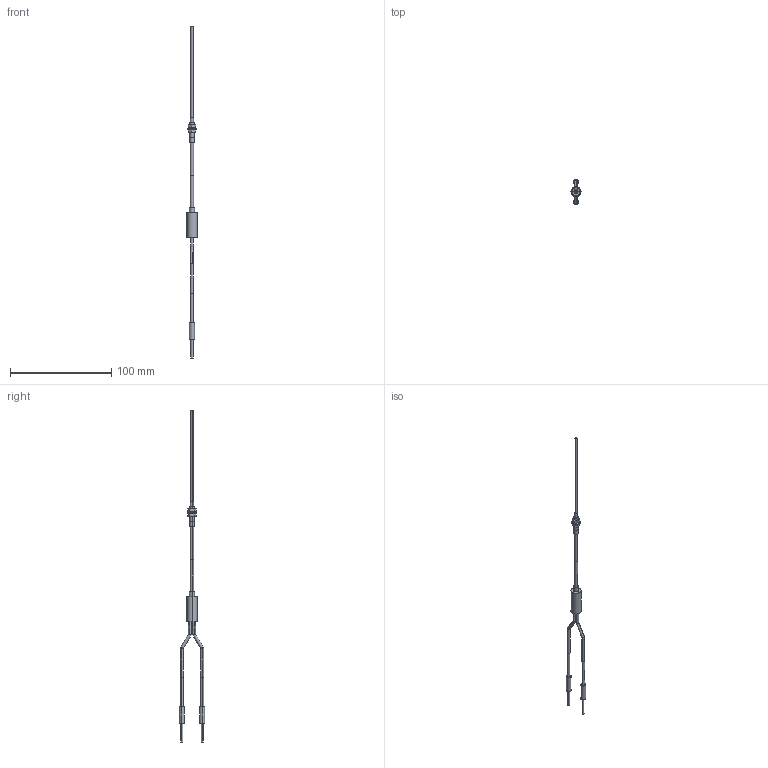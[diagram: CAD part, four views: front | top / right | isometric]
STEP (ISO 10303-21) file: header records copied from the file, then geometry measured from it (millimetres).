
FILE_DESCRIPTION (( 'STEP AP203' ), '1' );
FILE_NAME ('FD-H35-20S.STEP', '2005-09-04T09:45:19', ( '川島良英' ), ( ' ' ), 'SwSTEP 2.0', 'SolidWorks 2004251', '' );
FILE_SCHEMA (( 'CONFIG_CONTROL_DESIGN' ));
Length unit declared in the file: millimetre
Products named in the file (1): FD-H35-20S
Bounding box: 10 x 25 x 328 mm (x, y, z)
Volume: 5264.7 mm3; surface area: 5520.8 mm2
Topology: 8 solids, 8 shells, 92 faces, 192 edges, 128 vertices
Faces by surface type: cylinder 52, plane 40
Entity records: 2563 total; most frequent: CARTESIAN_POINT 461, DIRECTION 450, ORIENTED_EDGE 384, EDGE_CURVE 192, AXIS2_PLACEMENT_3D 181, VERTEX_POINT 128, EDGE_LOOP 112, ADVANCED_FACE 92
